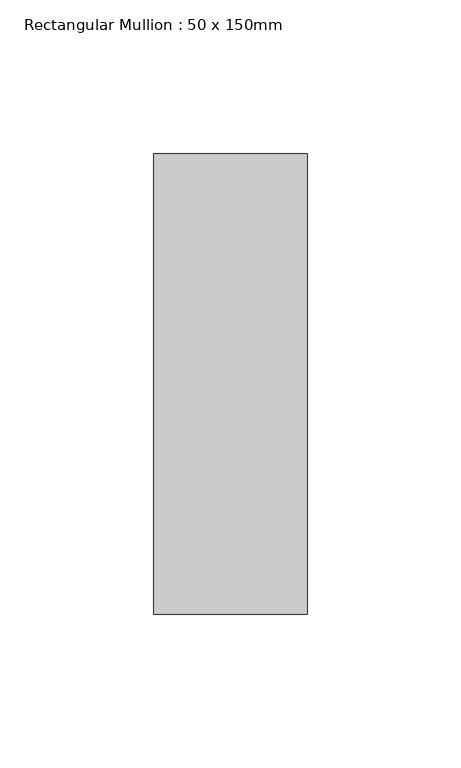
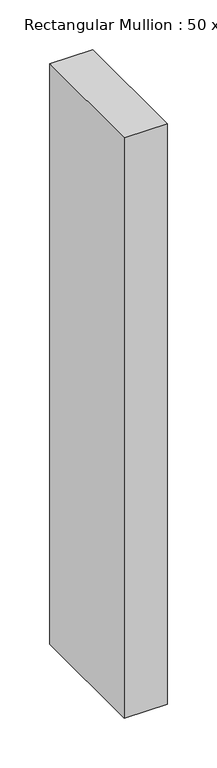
"""IFC4 building model written with IfcOpenShell, lengths in millimetres: member geometry, Rectangular Mullion : 50 x 150mm."""

from ifc_helpers import new_model, si_unit, frame, origin, place, context, project, spatial, polyline, outline, extrude, source, transform, mapped, element, save


def rectangular_mullion_50_x_150mm_80f63b0b(model_context):
    return source(origin(), model_context, "Body", "SweptSolid", [
        extrude(outline(polyline([(0.0, 75.0), (0.0, -75.0), (-50.0, -75.0), (-50.0, 75.0), (0.0, 75.0)])), frame((0.0, 0.0, -713.3333335), z_axis=(0.0, 0.0, 1.0), x_axis=(1.0, 0.0, 0.0)), (0.0, 0.0, 1.0), 713.3333335),
    ])


if __name__ == "__main__":
    model = new_model("IFC4")
    model_context = context("Model", 3, world=origin())
    ifc_project = project(units=[si_unit("LENGTHUNIT", "METRE", prefix="MILLI")], contexts=[model_context])
    site = spatial("IfcSite", under=ifc_project)
    building = spatial("IfcBuilding", under=site)
    placement = place(None, origin())
    rectangular_mullion_50_x_150mm_shape = rectangular_mullion_50_x_150mm_80f63b0b(model_context)
    element("IfcMember", 1, ObjectType="Rectangular Mullion : 50 x 150mm", at=placement, inside=building, context=model_context, shape_type="MappedRepresentation", body=[
        mapped(rectangular_mullion_50_x_150mm_shape, transform((0.0, 0.0, 0.0), x_axis=(1.0, 0.0, 0.0), y_axis=(0.0, 1.0, 0.0), z_axis=(0.0, 0.0, 1.0))),
    ])
    save(model, "model.ifc")
